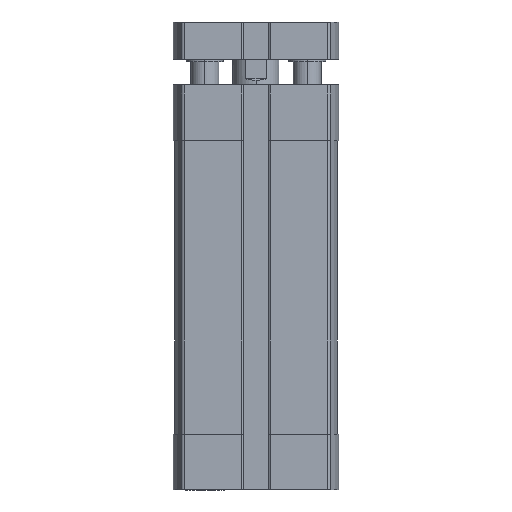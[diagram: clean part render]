
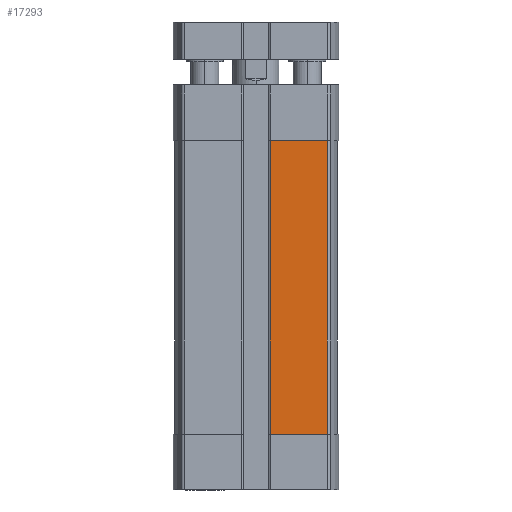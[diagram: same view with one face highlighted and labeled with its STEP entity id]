
A CAD part, front view. The second image highlights one B-rep face of the part: STEP entity #17293.
In plain terms, the highlighted planar face has unit normal (0, -1, 0) as drawn and (-1, 0, 0) by its records, which use the part's own axes.
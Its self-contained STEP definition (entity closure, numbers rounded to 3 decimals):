
#621 = EDGE_CURVE ( 'NONE', #2858, #15483, #17676, .T. ) ;
#643 = EDGE_CURVE ( 'NONE', #17722, #15483, #18561, .T. ) ;
#684 = VERTEX_POINT ( 'NONE', #4033 ) ;
#1290 = EDGE_LOOP ( 'NONE', ( #13601, #7193, #2017, #4812 ) ) ;
#2017 = ORIENTED_EDGE ( 'NONE', *, *, #621, .T. ) ;
#2319 = EDGE_CURVE ( 'NONE', #17722, #684, #16566, .T. ) ;
#2858 = VERTEX_POINT ( 'NONE', #17774 ) ;
#4033 = CARTESIAN_POINT ( 'NONE',  ( -17.5, -15.253, -75. ) ) ;
#4422 = CARTESIAN_POINT ( 'NONE',  ( -17.5, -15.253, -75. ) ) ;
#4812 = ORIENTED_EDGE ( 'NONE', *, *, #643, .F. ) ;
#4906 = VECTOR ( 'NONE', #18601, 1000. ) ;
#5300 = CARTESIAN_POINT ( 'NONE',  ( -17.5, -3.1, -75. ) ) ;
#5898 = DIRECTION ( 'NONE',  ( -1., 0., 0. ) ) ;
#6736 = LINE ( 'NONE', #4422, #17888 ) ;
#7193 = ORIENTED_EDGE ( 'NONE', *, *, #7610, .T. ) ;
#7610 = EDGE_CURVE ( 'NONE', #684, #2858, #6736, .T. ) ;
#7878 = CARTESIAN_POINT ( 'NONE',  ( -17.5, -3.1, -75. ) ) ;
#7942 = DIRECTION ( 'NONE',  ( 0., 0., 1. ) ) ;
#8068 = DIRECTION ( 'NONE',  ( 0., 1., 0. ) ) ;
#9475 = VECTOR ( 'NONE', #7942, 1000. ) ;
#9681 = CARTESIAN_POINT ( 'NONE',  ( -17.5, 0., -12. ) ) ;
#11327 = FACE_OUTER_BOUND ( 'NONE', #1290, .T. ) ;
#11376 = CARTESIAN_POINT ( 'NONE',  ( -17.5, -3.1, -75. ) ) ;
#13601 = ORIENTED_EDGE ( 'NONE', *, *, #2319, .T. ) ;
#13802 = VECTOR ( 'NONE', #8068, 1000. ) ;
#14608 = CARTESIAN_POINT ( 'NONE',  ( -17.5, -3.1, -75. ) ) ;
#15483 = VERTEX_POINT ( 'NONE', #18886 ) ;
#16047 = PLANE ( 'NONE',  #16935 ) ;
#16114 = DIRECTION ( 'NONE',  ( 0., 0., 1. ) ) ;
#16566 = LINE ( 'NONE', #11376, #4906 ) ;
#16935 = AXIS2_PLACEMENT_3D ( 'NONE', #14608, #5898, #16114 ) ;
#17293 = ADVANCED_FACE ( 'NONE', ( #11327 ), #16047, .T. ) ;
#17494 = DIRECTION ( 'NONE',  ( 0., 0., 1. ) ) ;
#17676 = LINE ( 'NONE', #9681, #13802 ) ;
#17722 = VERTEX_POINT ( 'NONE', #5300 ) ;
#17774 = CARTESIAN_POINT ( 'NONE',  ( -17.5, -15.253, -12. ) ) ;
#17888 = VECTOR ( 'NONE', #17494, 1000. ) ;
#18561 = LINE ( 'NONE', #7878, #9475 ) ;
#18601 = DIRECTION ( 'NONE',  ( 0., -1., 0. ) ) ;
#18886 = CARTESIAN_POINT ( 'NONE',  ( -17.5, -3.1, -12. ) ) ;
